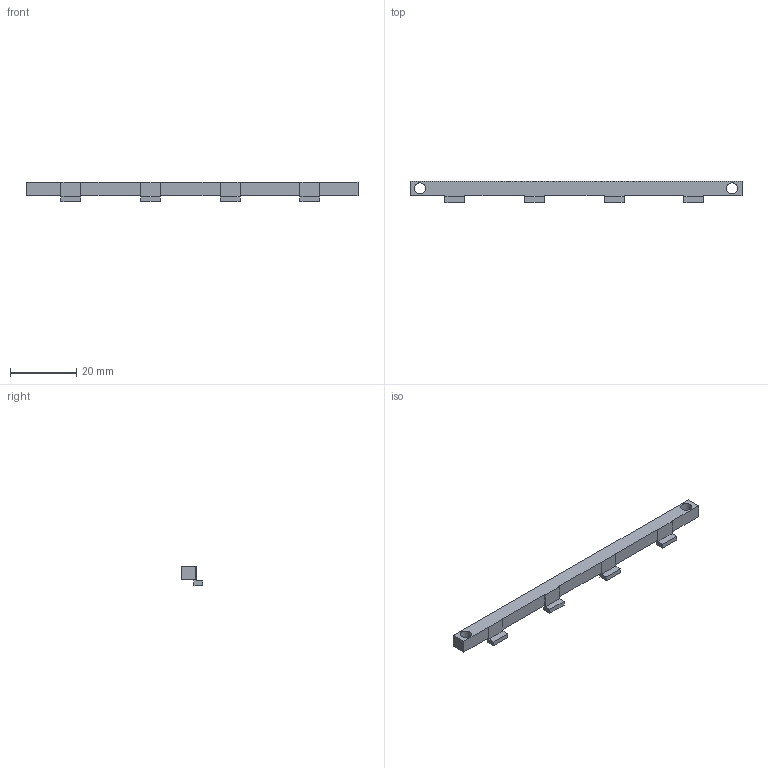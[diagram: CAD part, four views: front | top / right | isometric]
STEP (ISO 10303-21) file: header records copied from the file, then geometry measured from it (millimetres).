
FILE_DESCRIPTION(('Open CASCADE Model'),'2;1');
FILE_NAME('Open CASCADE Shape Model','2026-10-03T22:44:22',('Author'),( 'Open CASCADE'),'Open CASCADE STEP processor 7.8','Open CASCADE 7.8' ,'Unknown');
FILE_SCHEMA(('AUTOMOTIVE_DESIGN { 1 0 10303 214 1 1 1 1 }'));
Length unit declared in the file: millimetre
Products named in the file (1): Open CASCADE STEP translator 7.8 3
Bounding box: 100 x 6.6 x 5.8 mm (x, y, z)
Volume: 1804 mm3; surface area: 1995.2 mm2
Topology: 1 solids, 1 shells, 40 faces, 114 edges, 76 vertices
Faces by surface type: plane 38, cylinder 2
Full cylindrical faces by diameter (mm): 3.4 x2
Entity records: 2750 total; most frequent: CARTESIAN_POINT 491, DIRECTION 396, LINE 302, VECTOR 302, ORIENTED_EDGE 228, PCURVE 228, DEFINITIONAL_REPRESENTATION 228, EDGE_CURVE 114
